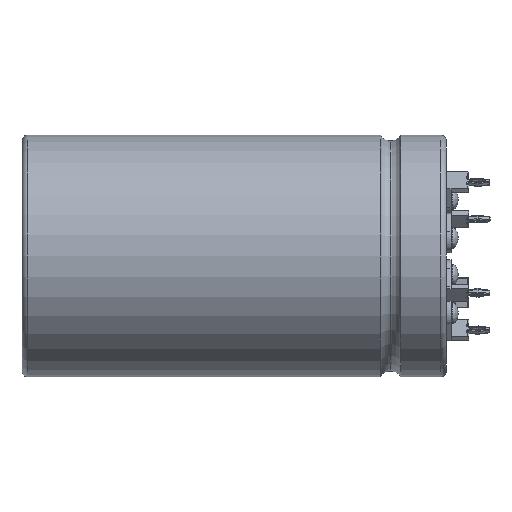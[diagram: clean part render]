
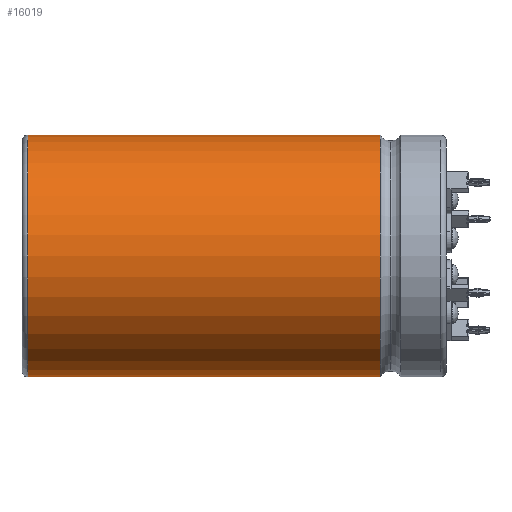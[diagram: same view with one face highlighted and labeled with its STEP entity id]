
A CAD part, left-side view. The second image highlights one B-rep face of the part: STEP entity #16019.
In plain terms, the highlighted cylindrical face has radius 20.5 mm (diameter 41 mm), a partial arc.
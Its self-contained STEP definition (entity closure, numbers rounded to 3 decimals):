
#992 = DIRECTION ( 'NONE',  ( 0., -1., 0. ) ) ;
#1858 = CARTESIAN_POINT ( 'NONE',  ( 0., 11.191, -20.5 ) ) ;
#2321 = EDGE_CURVE ( 'NONE', #7997, #7695, #15467, .T. ) ;
#2614 = EDGE_CURVE ( 'NONE', #4371, #8028, #15644, .T. ) ;
#3222 = CIRCLE ( 'NONE', #3747, 20.5 ) ;
#3333 = VECTOR ( 'NONE', #12123, 1000. ) ;
#3485 = DIRECTION ( 'NONE',  ( 0., -1., 0. ) ) ;
#3747 = AXIS2_PLACEMENT_3D ( 'NONE', #7576, #992, #7519 ) ;
#3967 = DIRECTION ( 'NONE',  ( 0., -1., 0. ) ) ;
#4371 = VERTEX_POINT ( 'NONE', #8869 ) ;
#4685 = FACE_OUTER_BOUND ( 'NONE', #12067, .T. ) ;
#5054 = CARTESIAN_POINT ( 'NONE',  ( 0., 71., 0. ) ) ;
#5218 = ORIENTED_EDGE ( 'NONE', *, *, #2321, .F. ) ;
#5514 = CYLINDRICAL_SURFACE ( 'NONE', #6837, 20.5 ) ;
#5603 = ORIENTED_EDGE ( 'NONE', *, *, #9069, .F. ) ;
#6544 = CARTESIAN_POINT ( 'NONE',  ( 0., 11.191, 20.5 ) ) ;
#6722 = DIRECTION ( 'NONE',  ( 0., 0., -1. ) ) ;
#6837 = AXIS2_PLACEMENT_3D ( 'NONE', #14244, #3967, #6722 ) ;
#6892 = VECTOR ( 'NONE', #3485, 1000. ) ;
#7519 = DIRECTION ( 'NONE',  ( 0., 0., -1. ) ) ;
#7576 = CARTESIAN_POINT ( 'NONE',  ( 0., 11.191, 0. ) ) ;
#7695 = VERTEX_POINT ( 'NONE', #6544 ) ;
#7997 = VERTEX_POINT ( 'NONE', #11015 ) ;
#8028 = VERTEX_POINT ( 'NONE', #1858 ) ;
#8869 = CARTESIAN_POINT ( 'NONE',  ( 0., 71., -20.5 ) ) ;
#9069 = EDGE_CURVE ( 'NONE', #7695, #8028, #3222, .T. ) ;
#9124 = EDGE_CURVE ( 'NONE', #7997, #4371, #14003, .T. ) ;
#9583 = ORIENTED_EDGE ( 'NONE', *, *, #2614, .T. ) ;
#11015 = CARTESIAN_POINT ( 'NONE',  ( 0., 71., 20.5 ) ) ;
#11328 = CARTESIAN_POINT ( 'NONE',  ( 0., 72., 20.5 ) ) ;
#11420 = ORIENTED_EDGE ( 'NONE', *, *, #9124, .T. ) ;
#12067 = EDGE_LOOP ( 'NONE', ( #5218, #11420, #9583, #5603 ) ) ;
#12123 = DIRECTION ( 'NONE',  ( 0., -1., 0. ) ) ;
#14003 = CIRCLE ( 'NONE', #14560, 20.5 ) ;
#14244 = CARTESIAN_POINT ( 'NONE',  ( 0., 72., 0. ) ) ;
#14370 = DIRECTION ( 'NONE',  ( 0., 0., 1. ) ) ;
#14560 = AXIS2_PLACEMENT_3D ( 'NONE', #5054, #16929, #14370 ) ;
#15467 = LINE ( 'NONE', #11328, #6892 ) ;
#15644 = LINE ( 'NONE', #16291, #3333 ) ;
#16019 = ADVANCED_FACE ( 'NONE', ( #4685 ), #5514, .T. ) ;
#16291 = CARTESIAN_POINT ( 'NONE',  ( 0., 72., -20.5 ) ) ;
#16929 = DIRECTION ( 'NONE',  ( 0., -1., 0. ) ) ;
